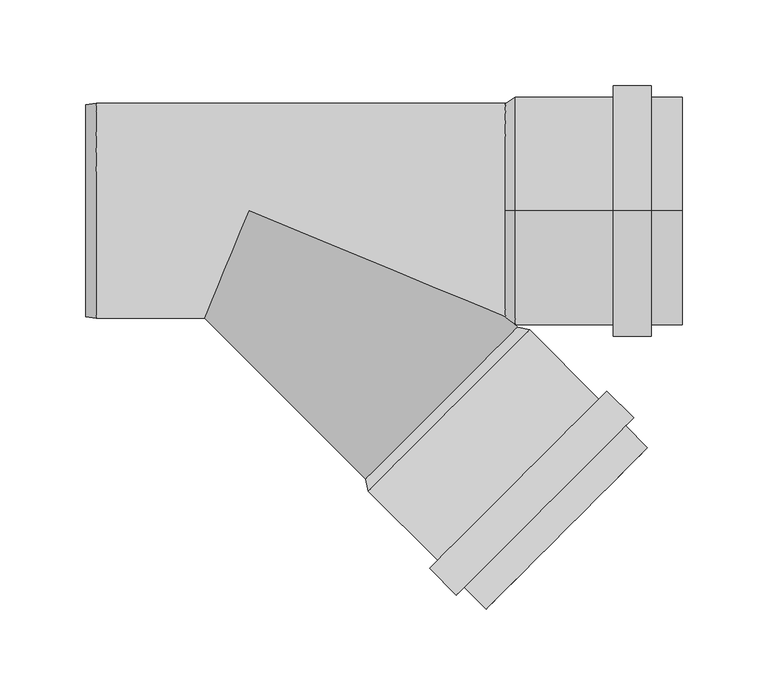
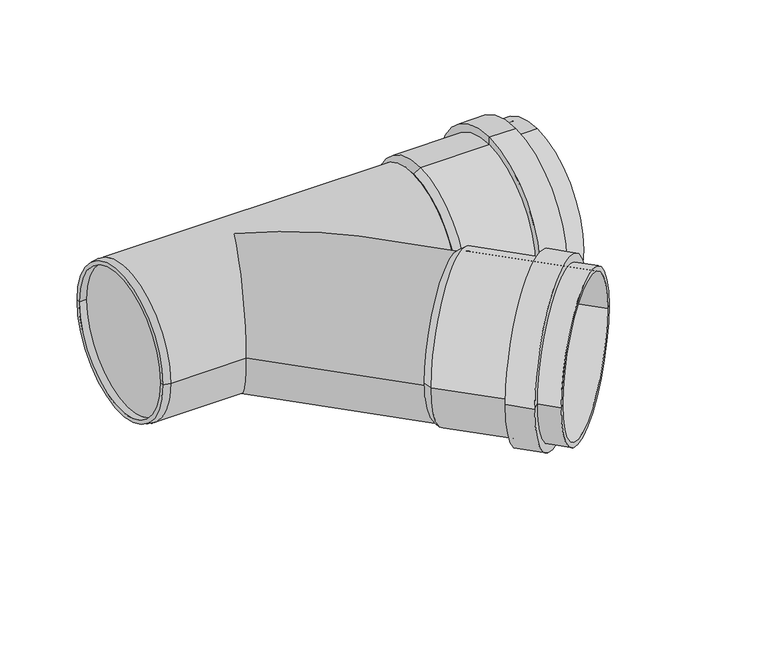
"""IFC4 building model written with IfcOpenShell, lengths in millimetres: pipe fitting geometry, OSMA_KG2000_PPKGEA : Odbočka 45°."""

import ifcopenshell
import ifcopenshell.guid

model = None  # the IFC model being written
_history = None  # IfcOwnerHistory: only IFC2X3 demands one
_inside = {}  # id of a spatial element -> (the spatial element, [elements in it])
_under = {}  # id of a project, library or spatial element -> (it, [spatial elements below it])
_declared = {}  # id of a project -> (the project, [libraries it declares])
_typed = {}  # id of a type object -> (the type object, [elements of that type])
_made_of = {}  # id of a material, layer set ... -> (it, [elements and type objects made of it])


def new_model(schema):
    """Start an empty IFC model of exactly this schema.

    Asked for "IFC4X3", IfcOpenShell would pick the latest addendum, in which some entities
    have other attributes; the version numbers below select the first issue.
    IFC2X3 requires an IfcOwnerHistory on every rooted entity: one is made here for all.
    """
    global model, _history
    if schema == "IFC4X3":
        model = ifcopenshell.file(schema_version=(4, 3, 0, 0))
    else:
        model = ifcopenshell.file(schema=schema)
    _inside.clear()
    _under.clear()
    _declared.clear()
    _typed.clear()
    _made_of.clear()
    _history = None
    if model.schema == "IFC2X3":
        org = make("IfcOrganization", Name="unknown")
        user = make(
            "IfcPersonAndOrganization",
            ThePerson=make("IfcPerson", FamilyName="unknown"),
            TheOrganization=org,
        )
        app = make(
            "IfcApplication",
            ApplicationDeveloper=org,
            Version="unknown",
            ApplicationFullName="unknown",
            ApplicationIdentifier="unknown",
        )
        _history = make(
            "IfcOwnerHistory",
            OwningUser=user,
            OwningApplication=app,
            ChangeAction="ADDED",
            CreationDate=0,
        )
    return model


def make(cls, **values):
    """One entity of the class cls with the attributes given. An attribute that is None is left unset."""
    return model.create_entity(
        cls, **{name: value for name, value in values.items() if value is not None}
    )


def rooted(cls, **values):
    """An entity with a GlobalId (a new one), such as an element, a storey or a relation."""
    return make(cls, GlobalId=ifcopenshell.guid.new(), OwnerHistory=_history, **values)


def si_unit(unit_type, name, prefix=None):
    """IfcSIUnit, for example si_unit("LENGTHUNIT", "METRE", prefix="MILLI")."""
    return make("IfcSIUnit", UnitType=unit_type, Prefix=prefix, Name=name)


def assignment(units):
    """IfcUnitAssignment: the units of a project."""
    return None if units is None else make("IfcUnitAssignment", Units=units)


def point(xyz):
    """IfcCartesianPoint."""
    return None if xyz is None else make("IfcCartesianPoint", Coordinates=xyz)


def direction(xyz):
    """IfcDirection."""
    return None if xyz is None else make("IfcDirection", DirectionRatios=xyz)


def frame(location, z_axis=None, x_axis=None):
    """IfcAxis2Placement3D, a coordinate frame: its origin and axes. An axis left out is left unset."""
    return make(
        "IfcAxis2Placement3D",
        Location=point(location),
        Axis=direction(z_axis),
        RefDirection=direction(x_axis),
    )


def origin():
    """The frame at (0, 0, 0) with its axes left unset."""
    return frame((0.0, 0.0, 0.0))


def place(relative_to, where):
    """IfcLocalPlacement: puts the frame where relative to a parent placement (None: the world)."""
    return make(
        "IfcLocalPlacement", PlacementRelTo=relative_to, RelativePlacement=where
    )


def context(
    kind, dimensions, precision=None, world=None, true_north=None, identifier=None
):
    """IfcGeometricRepresentationContext, for example the 3D "Model" context."""
    return make(
        "IfcGeometricRepresentationContext",
        ContextIdentifier=identifier,
        ContextType=kind,
        CoordinateSpaceDimension=dimensions,
        Precision=precision,
        WorldCoordinateSystem=world,
        TrueNorth=true_north,
    )


def project(units=None, contexts=None):
    """IfcProject with its units and contexts."""
    return rooted(
        "IfcProject",
        Name="project",
        RepresentationContexts=contexts,
        UnitsInContext=assignment(units),
    )


def spatial(cls, under=None, at=None, **own):
    """A site, building, storey or space (cls), placed at a placement, below another one or the project."""
    s = rooted(cls, ObjectPlacement=at, **own)
    if under is not None:
        _under.setdefault(under.id(), (under, []))[1].append(s)
    return s


def polyline(points):
    """IfcPolyline through the points."""
    return make("IfcPolyline", Points=[point(p) for p in points])


def circle_curve(where, radius):
    """IfcCircle in the frame where."""
    return make("IfcCircle", Position=where, Radius=radius)


def ellipse_curve(where, semi_axis1, semi_axis2):
    """IfcEllipse in the frame where."""
    return make(
        "IfcEllipse", Position=where, SemiAxis1=semi_axis1, SemiAxis2=semi_axis2
    )


def shape(context_of_items, identifier, shape_type, items):
    """IfcShapeRepresentation: the items that make up one representation, for example the "Body"."""
    return make(
        "IfcShapeRepresentation",
        ContextOfItems=context_of_items,
        RepresentationIdentifier=identifier,
        RepresentationType=shape_type,
        Items=items,
    )


def source(mapping_origin, context_of_items, identifier, shape_type, items):
    """IfcRepresentationMap: a shape defined once, which mapped items show again and again."""
    return make(
        "IfcRepresentationMap",
        MappingOrigin=mapping_origin,
        MappedRepresentation=shape(context_of_items, identifier, shape_type, items),
    )


def transform(
    local_origin,
    x_axis=None,
    y_axis=None,
    z_axis=None,
    scale=None,
    scale2=None,
    scale3=None,
    uniform=True,
):
    """IfcCartesianTransformationOperator3D, or its non-uniform kind. x_axis, y_axis, z_axis: its Axis1, 2, 3."""
    if uniform:
        return make(
            "IfcCartesianTransformationOperator3D",
            Axis1=direction(x_axis),
            Axis2=direction(y_axis),
            LocalOrigin=point(local_origin),
            Scale=scale,
            Axis3=direction(z_axis),
        )
    return make(
        "IfcCartesianTransformationOperator3DnonUniform",
        Axis1=direction(x_axis),
        Axis2=direction(y_axis),
        LocalOrigin=point(local_origin),
        Scale=scale,
        Axis3=direction(z_axis),
        Scale2=scale2,
        Scale3=scale3,
    )


def mapped(mapping_source, mapping_target):
    """IfcMappedItem: shows the shape of a source again, moved by a transform."""
    return make(
        "IfcMappedItem", MappingSource=mapping_source, MappingTarget=mapping_target
    )


def made_of(thing, what):
    """Note that an element or type object is made of a material, layer set ...; save() writes the relation."""
    if what is not None:
        _made_of.setdefault(what.id(), (what, []))[1].append(thing)
    return thing


def element(
    cls,
    number,
    at=None,
    inside=None,
    cuts=None,
    type_object=None,
    material=None,
    context=None,
    identifier="Body",
    shape_type=None,
    held_by="IfcProductDefinitionShape",
    body=None,
    shapes=None,
    **own,
):
    """One element of the class cls, such as IfcWall. Its Tag is "e" and its number.

    at: its placement. inside: the storey or other place that contains it. cuts: it is an
    opening in that element (IfcRelVoidsElement). A single representation is given by context,
    identifier, shape_type and body (its items); several are given by shapes. held_by: the class
    of the entity that holds the representations. save() writes the other relations.
    """
    e = rooted(cls, Tag="e%d" % number, ObjectPlacement=at, **own)
    if body is not None:
        shapes = [shape(context, identifier, shape_type, body)]
    if shapes is not None:
        e.Representation = make(held_by, Representations=shapes)
    if inside is not None:
        _inside.setdefault(inside.id(), (inside, []))[1].append(e)
    if cuts is not None:
        rooted(
            "IfcRelVoidsElement", RelatingBuildingElement=cuts, RelatedOpeningElement=e
        )
    if type_object is not None:
        _typed.setdefault(type_object.id(), (type_object, []))[1].append(e)
    return made_of(e, material)


def aggregate(whole, parts):
    """IfcRelAggregates: a whole, such as a stair, and the parts it consists of."""
    return rooted("IfcRelAggregates", RelatingObject=whole, RelatedObjects=parts)


def save(model, path):
    """Write the relations noted so far, then the file.

    IfcRelAggregates (storeys below a building ...), IfcRelContainedInSpatialStructure (elements
    in a storey), IfcRelDefinesByType, IfcRelAssociatesMaterial and IfcRelDeclares: one each for
    every whole, place, type object, material and project.
    """
    for whole, parts in _under.values():
        aggregate(whole, parts)
    for where, things in _inside.values():
        rooted(
            "IfcRelContainedInSpatialStructure",
            RelatedElements=things,
            RelatingStructure=where,
        )
    for kind, things in _typed.values():
        rooted("IfcRelDefinesByType", RelatedObjects=things, RelatingType=kind)
    for what, things in _made_of.values():
        rooted("IfcRelAssociatesMaterial", RelatedObjects=things, RelatingMaterial=what)
    for by, libraries in _declared.values():
        rooted("IfcRelDeclares", RelatingContext=by, RelatedDefinitions=libraries)
    model.write(path)


def plane_surface(at):
    """IfcPlane: the flat surface through the origin of the frame at, square to its z axis."""
    return make("IfcPlane", Position=at)


def cylinder_surface(at, radius):
    """IfcCylindricalSurface: all points at the distance radius from the z axis of the frame at."""
    return make("IfcCylindricalSurface", Position=at, Radius=radius)


def revolved_surface(curve, axis_point, axis_direction):
    """IfcSurfaceOfRevolution: the curve turned about the line through axis_point along axis_direction."""
    return make(
        "IfcSurfaceOfRevolution",
        SweptCurve=make("IfcArbitraryOpenProfileDef", ProfileType="CURVE", Curve=curve),
        AxisPosition=make("IfcAxis1Placement", Location=point(axis_point), Axis=direction(axis_direction)),
    )


def advanced_brep(points, edges, surfaces, faces):
    """IfcAdvancedBrep: a solid bounded by faces that lie on surfaces and meet in shared edges.

    An edge is (start, end): straight between two places in points (the first is 0);
    or (start, end, curve); or (start, end, curve, False) where it runs against its curve.
    A face is (place in surfaces, loops), or (place, loops, False) where it looks against
    its surface's normal. A loop lists edges by number (the first is 1), with a minus sign
    where the edge is run from its end to its start. The first loop is the outer one.
    """
    corners = [point(p) for p in points]
    vertices = [make("IfcVertexPoint", VertexGeometry=c) for c in corners]
    made = []
    for start, end, *more in edges:
        made.append(
            make(
                "IfcEdgeCurve",
                EdgeStart=vertices[start],
                EdgeEnd=vertices[end],
                EdgeGeometry=more[0] if more else make("IfcPolyline", Points=[corners[start], corners[end]]),
                SameSense=more[1] if len(more) > 1 else True,
            )
        )
    hull = []
    for where, loops, *sense in faces:
        bounds = []
        for j, loop in enumerate(loops):
            ring = [make("IfcOrientedEdge", EdgeElement=made[abs(k) - 1], Orientation=k > 0) for k in loop]
            bounds.append(
                make(
                    "IfcFaceOuterBound" if j == 0 else "IfcFaceBound",
                    Bound=make("IfcEdgeLoop", EdgeList=ring),
                    Orientation=True,
                )
            )
        hull.append(make("IfcAdvancedFace", Bounds=bounds, FaceSurface=surfaces[where], SameSense=sense[0] if sense else True))
    return make("IfcAdvancedBrep", Outer=make("IfcClosedShell", CfsFaces=hull))


def pipe_fitting_f4ad6641(model_context):
    return source(origin(), model_context, "Body", "AdvancedBrep", [
        advanced_brep(
        [(160.5132393, -72.1248917, 1.6299565), (72.1248917, -160.5132393, 1.6299565), (140.7142495, -229.1025971, 1.6299565), (229.1025971, -140.7142495, 1.6299565), (203.5760423, -109.6722618, 1.6299565), (109.6722618, -203.5760423, 1.6299565), (69.3671752, -163.2709558, 1.6299565), (163.2709558, -69.3671752, 1.6299565), (208.2429471, -105.005357, 1.6299565), (105.005357, -208.2429471, 1.6299565), (223.7992962, -120.5617062, 1.6299565), (120.5617062, -223.7992962, 1.6299565), (219.1323915, -125.2286109, 1.6299565), (125.2286109, -219.1323915, 1.6299565), (231.8603136, -137.956533, 1.6299565), (137.956533, -231.8603136, 1.6299565), (153.5128822, -70.6399674, 1.6299565), (70.6399674, -153.5128822, 1.6299565), (156.2705986, -67.882251, 1.6299565), (67.882251, -156.2705986, 1.6299565)],
        [
            (0, 1, circle_curve(frame((116.3190655, -116.3190655, 1.6299565), z_axis=(-0.707106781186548, 0.707106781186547, 0.0), x_axis=(-0.707106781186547, -0.707106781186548, 0.0)), 62.5)),
            (1, 2),
            (2, 3, circle_curve(frame((184.9084233, -184.9084233, 1.6299565), z_axis=(0.707106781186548, -0.707106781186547, 0.0), x_axis=(-0.707106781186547, -0.707106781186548, 0.0)), 62.5)),
            (3, 0),
            (1, 0, circle_curve(frame((116.3190655, -116.3190655, 1.6299565), z_axis=(-0.707106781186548, 0.707106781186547, 0.0), x_axis=(-0.707106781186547, -0.707106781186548, 0.0)), 62.5)),
            (3, 2, circle_curve(frame((184.9084233, -184.9084233, 1.6299565), z_axis=(0.707106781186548, -0.707106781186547, 0.0), x_axis=(-0.707106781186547, -0.707106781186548, 0.0)), 62.5)),
            (4, 5, circle_curve(frame((156.624152, -156.624152, 1.6299565), z_axis=(-0.707106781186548, 0.707106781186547, 0.0), x_axis=(-0.707106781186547, -0.707106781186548, 0.0)), 66.4)),
            (5, 6),
            (6, 7, circle_curve(frame((116.3190655, -116.3190655, 1.6299565), z_axis=(0.707106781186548, -0.707106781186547, 0.0), x_axis=(-0.707106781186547, -0.707106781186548, 0.0)), 66.4)),
            (7, 4),
            (5, 4, circle_curve(frame((156.624152, -156.624152, 1.6299565), z_axis=(-0.707106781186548, 0.707106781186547, 0.0), x_axis=(-0.707106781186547, -0.707106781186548, 0.0)), 66.4)),
            (7, 6, circle_curve(frame((116.3190655, -116.3190655, 1.6299565), z_axis=(0.707106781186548, -0.707106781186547, 0.0), x_axis=(-0.707106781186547, -0.707106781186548, 0.0)), 66.4)),
            (8, 9, circle_curve(frame((156.624152, -156.624152, 1.6299565), z_axis=(-0.707106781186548, 0.707106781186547, 0.0), x_axis=(-0.707106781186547, -0.707106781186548, 0.0)), 73.0)),
            (9, 5),
            (4, 8),
            (9, 8, circle_curve(frame((156.624152, -156.624152, 1.6299565), z_axis=(-0.707106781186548, 0.707106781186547, 0.0), x_axis=(-0.707106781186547, -0.707106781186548, 0.0)), 73.0)),
            (10, 11, circle_curve(frame((172.1805012, -172.1805012, 1.6299565), z_axis=(-0.707106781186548, 0.707106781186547, 0.0), x_axis=(-0.707106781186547, -0.707106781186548, 0.0)), 73.0)),
            (11, 9),
            (8, 10),
            (11, 10, circle_curve(frame((172.1805012, -172.1805012, 1.6299565), z_axis=(-0.707106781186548, 0.707106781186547, 0.0), x_axis=(-0.707106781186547, -0.707106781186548, 0.0)), 73.0)),
            (12, 13, circle_curve(frame((172.1805012, -172.1805012, 1.6299565), z_axis=(-0.707106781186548, 0.707106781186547, 0.0), x_axis=(-0.707106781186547, -0.707106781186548, 0.0)), 66.4)),
            (13, 11),
            (10, 12),
            (13, 12, circle_curve(frame((172.1805012, -172.1805012, 1.6299565), z_axis=(-0.707106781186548, 0.707106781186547, 0.0), x_axis=(-0.707106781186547, -0.707106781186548, 0.0)), 66.4)),
            (14, 15, circle_curve(frame((184.9084233, -184.9084233, 1.6299565), z_axis=(-0.707106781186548, 0.707106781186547, 0.0), x_axis=(-0.707106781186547, -0.707106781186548, 0.0)), 66.4)),
            (15, 13),
            (12, 14),
            (15, 14, circle_curve(frame((184.9084233, -184.9084233, 1.6299565), z_axis=(-0.707106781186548, 0.707106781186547, 0.0), x_axis=(-0.707106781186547, -0.707106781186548, 0.0)), 66.4)),
            (2, 15),
            (14, 3),
            (16, 17, circle_curve(frame((112.0764248, -112.0764248, 1.6299565), z_axis=(-0.707106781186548, 0.707106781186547, 0.0), x_axis=(-0.707106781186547, -0.707106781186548, 0.0)), 58.6)),
            (17, 1),
            (0, 16),
            (17, 16, circle_curve(frame((112.0764248, -112.0764248, 1.6299565), z_axis=(-0.707106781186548, 0.707106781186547, 0.0), x_axis=(-0.707106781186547, -0.707106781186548, 0.0)), 58.6)),
            (18, 19, circle_curve(frame((112.0764248, -112.0764248, 1.6299565), z_axis=(-0.707106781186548, 0.707106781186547, 0.0), x_axis=(-0.707106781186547, -0.707106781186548, 0.0)), 62.5)),
            (19, 17),
            (16, 18),
            (19, 18, circle_curve(frame((112.0764248, -112.0764248, 1.6299565), z_axis=(-0.707106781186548, 0.707106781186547, 0.0), x_axis=(-0.707106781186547, -0.707106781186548, 0.0)), 62.5)),
            (6, 19),
            (18, 7),
        ],
        [
            revolved_surface(polyline([(140.71424947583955, -229.10259712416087, 1.6299565), (72.12489167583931, -160.51323932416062, 1.6299565)]), (2072.5117463, -2072.5117463, 1.6299565), (0.707106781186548, -0.707106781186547, 0.0)),
            cylinder_surface(frame((2072.5117463, -2072.5117463, 1.6299565), z_axis=(0.707106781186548, -0.707106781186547, 0.0), x_axis=(-0.707106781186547, -0.707106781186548, 0.0)), 66.4),
            plane_surface(frame((156.624152, -156.624152, 1.6299565), z_axis=(-0.707106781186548, 0.707106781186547, 0.0), x_axis=(-0.707106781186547, -0.707106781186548, 0.0))),
            cylinder_surface(frame((2072.5117463, -2072.5117463, 1.6299565), z_axis=(0.707106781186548, -0.707106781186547, 0.0), x_axis=(-0.707106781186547, -0.707106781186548, 0.0)), 73.0),
            plane_surface(frame((172.1805012, -172.1805012, 1.6299565), z_axis=(0.707106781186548, -0.707106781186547, 0.0), x_axis=(-0.707106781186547, -0.707106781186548, 0.0))),
            plane_surface(frame((184.9084233, -184.9084233, 1.6299565), z_axis=(0.707106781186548, -0.707106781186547, 0.0), x_axis=(-0.707106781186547, -0.707106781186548, 0.0))),
            revolved_surface(polyline([(72.1248917, -160.5132393, 1.6299565), (70.6399674, -153.5128822, 1.6299565)]), (2072.5117463, -2072.5117463, 1.6299565), (0.707106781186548, -0.707106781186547, 0.0)),
            plane_surface(frame((112.0764248, -112.0764248, 1.6299565), z_axis=(-0.707106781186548, 0.707106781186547, 0.0), x_axis=(-0.707106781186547, -0.707106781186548, 0.0))),
            revolved_surface(polyline([(67.882251, -156.2705986, 1.6299565), (69.3671752, -163.2709558, 1.6299565)]), (2072.5117463, -2072.5117463, 1.6299565), (0.707106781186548, -0.707106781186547, 0.0)),
        ],
        [
            (0, [[1, 2, 3, 4]]),
            (0, [[5, -4, 6, -2]]),
            (1, [[7, 8, 9, 10]]),
            (1, [[11, -10, 12, -8]]),
            (2, [[13, 14, -7, 15]]),
            (2, [[16, -15, -11, -14]]),
            (3, [[17, 18, -13, 19]]),
            (3, [[20, -19, -16, -18]]),
            (4, [[21, 22, -17, 23]]),
            (4, [[24, -23, -20, -22]]),
            (1, [[25, 26, -21, 27]]),
            (1, [[28, -27, -24, -26]]),
            (5, [[-3, 29, -25, 30]]),
            (5, [[-6, -30, -28, -29]]),
            (6, [[31, 32, -1, 33]]),
            (6, [[34, -33, -5, -32]]),
            (7, [[35, 36, -31, 37]]),
            (7, [[38, -37, -34, -36]]),
            (8, [[-9, 39, -35, 40]]),
            (8, [[-12, -40, -38, -39]]),
        ],
    ),
        advanced_brep(
        [(155.0, 0.0, -62.5), (155.0, 0.0, 62.5), (252.0, 0.0, 62.5), (252.0, 0.0, -62.5), (212.0, 0.0, -66.4), (212.0, 0.0, 66.4), (155.0, 0.0, 66.4), (155.0, 0.0, -66.4), (212.0, 0.0, -73.0), (212.0, 0.0, 73.0), (234.0, 0.0, -73.0), (234.0, 0.0, 73.0), (234.0, 0.0, -66.4), (234.0, 0.0, 66.4), (252.0, 0.0, -66.4), (252.0, 0.0, 66.4), (149.0, 0.0, -58.6), (149.0, 0.0, 58.6), (149.0, 0.0, -62.5), (149.0, 0.0, 62.5)],
        [
            (0, 1, circle_curve(frame((155.0, 0.0, 0.0), z_axis=(-1.0, 0.0, 0.0), x_axis=(0.0, 0.0, 1.0)), 62.5)),
            (1, 2),
            (2, 3, circle_curve(frame((252.0, 0.0, 0.0), z_axis=(1.0, 0.0, 0.0), x_axis=(0.0, 0.0, 1.0)), 62.5)),
            (3, 0),
            (1, 0, circle_curve(frame((155.0, 0.0, 0.0), z_axis=(-1.0, 0.0, 0.0), x_axis=(0.0, 0.0, 1.0)), 62.5)),
            (3, 2, circle_curve(frame((252.0, 0.0, 0.0), z_axis=(1.0, 0.0, 0.0), x_axis=(0.0, 0.0, 1.0)), 62.5)),
            (4, 5, circle_curve(frame((212.0, 0.0, 0.0), z_axis=(-1.0, 0.0, 0.0), x_axis=(0.0, 0.0, 1.0)), 66.4)),
            (5, 6),
            (6, 7, circle_curve(frame((155.0, 0.0, 0.0), z_axis=(1.0, 0.0, 0.0), x_axis=(0.0, 0.0, 1.0)), 66.4)),
            (7, 4),
            (5, 4, circle_curve(frame((212.0, 0.0, 0.0), z_axis=(-1.0, 0.0, 0.0), x_axis=(0.0, 0.0, 1.0)), 66.4)),
            (7, 6, circle_curve(frame((155.0, 0.0, 0.0), z_axis=(1.0, 0.0, 0.0), x_axis=(0.0, 0.0, 1.0)), 66.4)),
            (8, 9, circle_curve(frame((212.0, 0.0, 0.0), z_axis=(-1.0, 0.0, 0.0), x_axis=(0.0, 0.0, 1.0)), 73.0)),
            (9, 5),
            (4, 8),
            (9, 8, circle_curve(frame((212.0, 0.0, 0.0), z_axis=(-1.0, 0.0, 0.0), x_axis=(0.0, 0.0, 1.0)), 73.0)),
            (10, 11, circle_curve(frame((234.0, 0.0, 0.0), z_axis=(-1.0, 0.0, 0.0), x_axis=(0.0, 0.0, 1.0)), 73.0)),
            (11, 9),
            (8, 10),
            (11, 10, circle_curve(frame((234.0, 0.0, 0.0), z_axis=(-1.0, 0.0, 0.0), x_axis=(0.0, 0.0, 1.0)), 73.0)),
            (12, 13, circle_curve(frame((234.0, 0.0, 0.0), z_axis=(-1.0, 0.0, 0.0), x_axis=(0.0, 0.0, 1.0)), 66.4)),
            (13, 11),
            (10, 12),
            (13, 12, circle_curve(frame((234.0, 0.0, 0.0), z_axis=(-1.0, 0.0, 0.0), x_axis=(0.0, 0.0, 1.0)), 66.4)),
            (14, 15, circle_curve(frame((252.0, 0.0, 0.0), z_axis=(-1.0, 0.0, 0.0), x_axis=(0.0, 0.0, 1.0)), 66.4)),
            (15, 13),
            (12, 14),
            (15, 14, circle_curve(frame((252.0, 0.0, 0.0), z_axis=(-1.0, 0.0, 0.0), x_axis=(0.0, 0.0, 1.0)), 66.4)),
            (2, 15),
            (14, 3),
            (16, 17, circle_curve(frame((149.0, 0.0, 0.0), z_axis=(-1.0, 0.0, 0.0), x_axis=(0.0, 0.0, 1.0)), 58.6)),
            (17, 1),
            (0, 16),
            (17, 16, circle_curve(frame((149.0, 0.0, 0.0), z_axis=(-1.0, 0.0, 0.0), x_axis=(0.0, 0.0, 1.0)), 58.6)),
            (18, 19, circle_curve(frame((149.0, 0.0, 0.0), z_axis=(-1.0, 0.0, 0.0), x_axis=(0.0, 0.0, 1.0)), 62.5)),
            (19, 17),
            (16, 18),
            (19, 18, circle_curve(frame((149.0, 0.0, 0.0), z_axis=(-1.0, 0.0, 0.0), x_axis=(0.0, 0.0, 1.0)), 62.5)),
            (6, 19),
            (18, 7),
        ],
        [
            revolved_surface(polyline([(252.0, 0.0, 62.5), (155.0, 0.0, 62.5)]), (2921.4742198, 0.0, 0.0), (1.0, 0.0, 0.0)),
            cylinder_surface(frame((2921.4742198, 0.0, 0.0), z_axis=(1.0, 0.0, 0.0), x_axis=(0.0, 0.0, 1.0)), 66.4),
            plane_surface(frame((212.0, 0.0, 0.0), z_axis=(-1.0, 0.0, 0.0), x_axis=(0.0, 0.0, 1.0))),
            cylinder_surface(frame((2921.4742198, 0.0, 0.0), z_axis=(1.0, 0.0, 0.0), x_axis=(0.0, 0.0, 1.0)), 73.0),
            plane_surface(frame((234.0, 0.0, 0.0), z_axis=(1.0, 0.0, 0.0), x_axis=(0.0, 0.0, 1.0))),
            plane_surface(frame((252.0, 0.0, 0.0), z_axis=(1.0, 0.0, 0.0), x_axis=(0.0, 0.0, 1.0))),
            revolved_surface(polyline([(155.0, 0.0, 62.5), (149.0, 0.0, 58.6)]), (2921.4742198, 0.0, 0.0), (1.0, 0.0, 0.0)),
            plane_surface(frame((149.0, 0.0, 0.0), z_axis=(-1.0, 0.0, 0.0), x_axis=(0.0, 0.0, 1.0))),
            revolved_surface(polyline([(149.0, 0.0, 62.5), (155.0, 0.0, 66.4)]), (2921.4742198, 0.0, 0.0), (1.0, 0.0, 0.0)),
        ],
        [
            (0, [[1, 2, 3, 4]]),
            (0, [[5, -4, 6, -2]]),
            (1, [[7, 8, 9, 10]]),
            (1, [[11, -10, 12, -8]]),
            (2, [[13, 14, -7, 15]]),
            (2, [[16, -15, -11, -14]]),
            (3, [[17, 18, -13, 19]]),
            (3, [[20, -19, -16, -18]]),
            (4, [[21, 22, -17, 23]]),
            (4, [[24, -23, -20, -22]]),
            (1, [[25, 26, -21, 27]]),
            (1, [[28, -27, -24, -26]]),
            (5, [[-3, 29, -25, 30]]),
            (5, [[-6, -30, -28, -29]]),
            (6, [[31, 32, -1, 33]]),
            (6, [[34, -33, -5, -32]]),
            (7, [[35, 36, -31, 37]]),
            (7, [[38, -37, -34, -36]]),
            (8, [[-9, 39, -35, 40]]),
            (8, [[-12, -40, -38, -39]]),
        ],
    ),
        advanced_brep(
        [(70.0035713, -158.391919, 0.0), (158.391919, -70.0035713, 0.0), (150.8883476, -62.5, 0.0), (0.0, 0.0, 62.5), (-25.8883476, -62.5, 0.0), (0.0, 0.0, -62.5), (-95.0, -58.6, 0.0), (-95.0, 58.6, 0.0), (-95.0, 61.709508, 0.0), (-95.0, -61.709508, 0.0), (-89.0, -58.6, 0.0), (-89.0, 58.6, 0.0), (-89.0, 62.5, 0.0), (-89.0, -62.5, 0.0), (152.0, 62.5, 0.0), (152.0, -62.5, 0.0)],
        [
            (0, 1, circle_curve(frame((114.1977452, -114.1977452, 0.0), z_axis=(0.7071067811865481, -0.7071067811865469, 0.0), x_axis=(0.7071067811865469, 0.7071067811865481, 0.0)), 62.5)),
            (1, 0, circle_curve(frame((114.1977452, -114.1977452, 0.0), z_axis=(0.7071067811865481, -0.7071067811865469, 0.0), x_axis=(0.7071067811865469, 0.7071067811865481, 0.0)), 62.5)),
            (1, 2),
            (2, 3, ellipse_curve(frame((0.0, 0.0, 0.0), z_axis=(-0.3826834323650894, -0.923879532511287, 0.0), x_axis=(-0.923879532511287, 0.38268343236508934, 0.0)), 163.3203706, 62.5)),
            (3, 4, ellipse_curve(frame((0.0, 0.0, 0.0), z_axis=(0.923879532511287, -0.3826834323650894, 0.0), x_axis=(0.38268343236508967, 0.9238795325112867, 0.0)), 67.6495125, 62.5)),
            (4, 0),
            (4, 5, ellipse_curve(frame((0.0, 0.0, 0.0), z_axis=(0.923879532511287, -0.3826834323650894, 0.0), x_axis=(0.38268343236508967, 0.9238795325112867, 0.0)), 67.6495125, 62.5)),
            (5, 2, ellipse_curve(frame((0.0, 0.0, 0.0), z_axis=(-0.3826834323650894, -0.923879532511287, 0.0), x_axis=(-0.923879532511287, 0.38268343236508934, 0.0)), 163.3203706, 62.5)),
            (6, 7, circle_curve(frame((-95.0, 0.0, 0.0), z_axis=(1.0, 0.0, 0.0), x_axis=(0.0, 1.0, 0.0)), 58.6)),
            (7, 8),
            (8, 9, circle_curve(frame((-95.0, 0.0, 0.0), z_axis=(-1.0, 0.0, 0.0), x_axis=(0.0, 1.0, 0.0)), 61.709508)),
            (9, 6),
            (7, 6, circle_curve(frame((-95.0, 0.0, 0.0), z_axis=(1.0, 0.0, 0.0), x_axis=(0.0, 1.0, 0.0)), 58.6)),
            (9, 8, circle_curve(frame((-95.0, 0.0, 0.0), z_axis=(-1.0, 0.0, 0.0), x_axis=(0.0, 1.0, 0.0)), 61.709508)),
            (6, 10),
            (10, 11, circle_curve(frame((-89.0, 0.0, 0.0), z_axis=(1.0, 0.0, 0.0), x_axis=(0.0, 1.0, 0.0)), 58.6)),
            (11, 7),
            (11, 10, circle_curve(frame((-89.0, 0.0, 0.0), z_axis=(1.0, 0.0, 0.0), x_axis=(0.0, 1.0, 0.0)), 58.6)),
            (8, 12),
            (12, 13, circle_curve(frame((-89.0, 0.0, 0.0), z_axis=(-1.0, 0.0, 0.0), x_axis=(0.0, 1.0, 0.0)), 62.5)),
            (13, 9),
            (13, 12, circle_curve(frame((-89.0, 0.0, 0.0), z_axis=(-1.0, 0.0, 0.0), x_axis=(0.0, 1.0, 0.0)), 62.5)),
            (14, 15, circle_curve(frame((152.0, 0.0, 0.0), z_axis=(1.0, 0.0, 0.0), x_axis=(0.0, -1.0, 0.0)), 62.5)),
            (15, 14, circle_curve(frame((152.0, 0.0, 0.0), z_axis=(1.0, 0.0, 0.0), x_axis=(0.0, -1.0, 0.0)), 62.5)),
            (14, 12),
            (13, 4),
            (2, 15),
        ],
        [
            plane_surface(frame((114.1977452, -114.1977452, 0.0), z_axis=(0.7071067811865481, -0.7071067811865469, 0.0), x_axis=(0.0, 0.0, 1.0))),
            cylinder_surface(frame((0.0, 0.0, 0.0), z_axis=(-0.7071067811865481, 0.7071067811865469, 0.0), x_axis=(0.7071067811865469, 0.7071067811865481, 0.0)), 62.5),
            plane_surface(frame((-95.0, 0.0, 0.0), z_axis=(-1.0, 0.0, 0.0), x_axis=(0.0, 1.0, 0.0))),
            revolved_surface(polyline([(-95.0, 58.6, 0.0), (-89.0, 58.6, 0.0)]), (2061.0, 0.0, 0.0), (-1.0, 0.0, 0.0)),
            revolved_surface(polyline([(-89.0, 62.5, 0.0), (-95.0, 61.709508, 0.0)]), (2061.0, 0.0, 0.0), (-1.0, 0.0, 0.0)),
            plane_surface(frame((152.0, 0.0, 0.0), z_axis=(1.0, 0.0, 0.0), x_axis=(0.0, 0.0, 1.0))),
            plane_surface(frame((-89.0, 0.0, 0.0), z_axis=(-1.0, 0.0, 0.0), x_axis=(0.0, 0.0, 1.0))),
            cylinder_surface(frame((152.0, 0.0, 0.0), z_axis=(1.0, 0.0, 0.0), x_axis=(0.0, -1.0, 0.0)), 62.5),
        ],
        [
            (0, [[1, 2]]),
            (1, [[-2, 3, 4, 5, 6]]),
            (1, [[-1, -6, 7, 8, -3]]),
            (2, [[9, 10, 11, 12]]),
            (2, [[-10, 13, -12, 14]]),
            (3, [[-9, 15, 16, 17]]),
            (3, [[-13, -17, 18, -15]]),
            (4, [[-11, 19, 20, 21]]),
            (4, [[-14, -21, 22, -19]]),
            (5, [[23, 24]]),
            (6, [[-16, -18]]),
            (7, [[-23, 25, -22, 26, -5, -4, 27]]),
            (7, [[-24, -27, -8, -7, -26, -20, -25]]),
        ],
    ),
    ])


if __name__ == "__main__":
    model = new_model("IFC4")
    model_context = context("Model", 3, world=origin())
    ifc_project = project(units=[si_unit("LENGTHUNIT", "METRE", prefix="MILLI")], contexts=[model_context])
    site = spatial("IfcSite", under=ifc_project)
    building = spatial("IfcBuilding", under=site)
    placement = place(None, origin())
    pipe_fitting_shape = pipe_fitting_f4ad6641(model_context)
    element("IfcPipeFitting", 1, ObjectType="OSMA_KG2000_PPKGEA : Odbočka 45°", at=placement, inside=building, context=model_context, shape_type="MappedRepresentation", body=[
        mapped(pipe_fitting_shape, transform((0.0, 0.0, 0.0), x_axis=(1.0, 0.0, 0.0), y_axis=(0.0, 1.0, 0.0), z_axis=(0.0, 0.0, 1.0))),
    ])
    save(model, "model.ifc")
